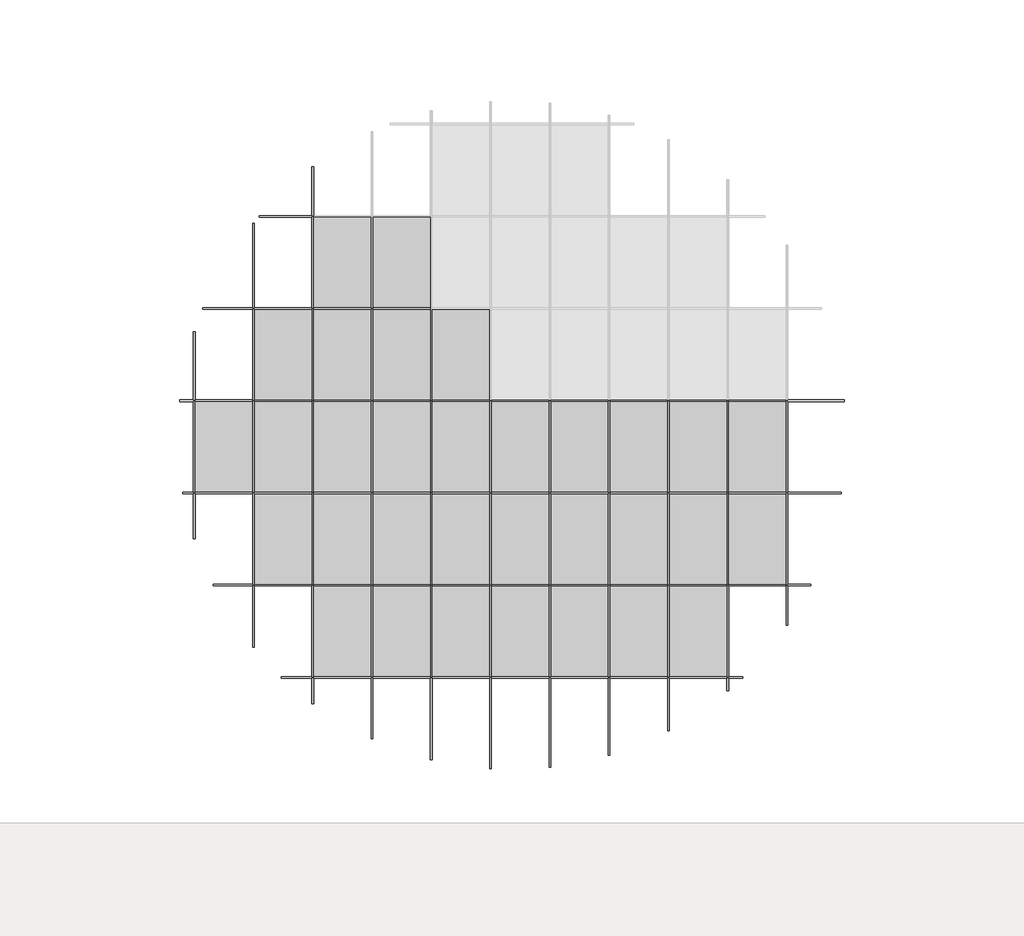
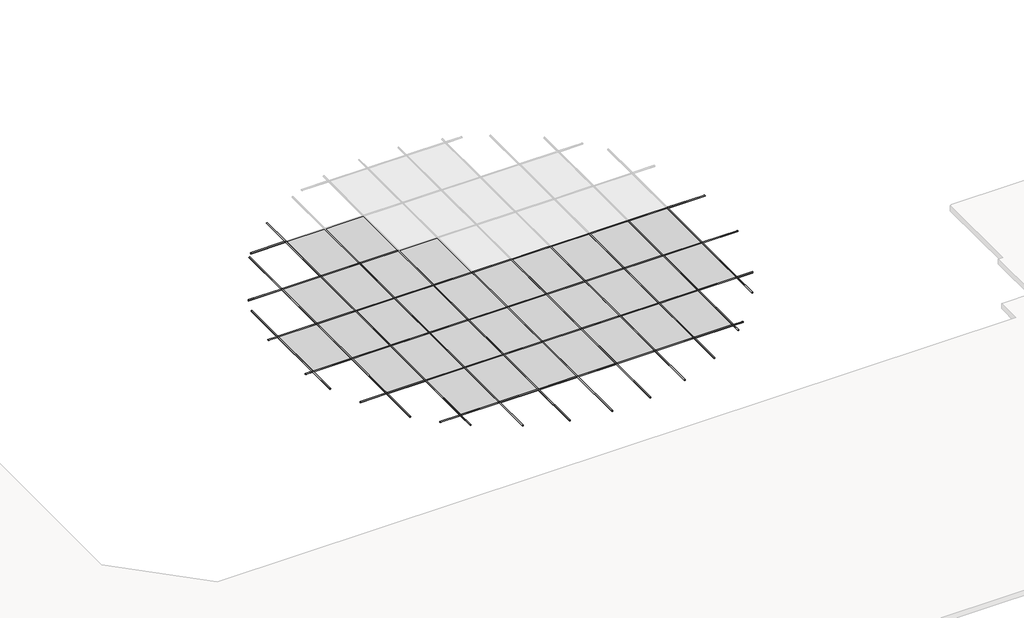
# One storey, part 1 of 2: 96 members, 32 plates.
"""IFC4 building model written with IfcOpenShell, lengths in millimetres."""

from ifc_helpers import new_model, si_unit, origin, place, context, project, spatial, transform, mapped, element, save
from components import member_d95575fb, member_0f460398, member_91c2d102, member_bfca14ca, member_fa94dc53, member_b906242a, member_67be213a, member_7f045f6e, member_f332dd52, member_1cbf8feb, member_bbfd51af, member_9d098597, member_0477ad9e, member_845dd39e, member_e576f25c, member_2abb22e4, member_0fbff286, member_6b4de103, member_b493c0ce, member_d9b21ff1, member_7ddd8d92, member_ed3956ca, member_4ec9f277, member_37831322, member_d0450398, member_40f360b9, plate_f02ba564

model = new_model("IFC4")

# Units and contexts
model_context = context("Model", 3, world=origin())
ifc_project = project(units=[si_unit("LENGTHUNIT", "METRE", prefix="MILLI")], contexts=[model_context])

# Site, building, storey
site = spatial("IfcSite", under=ifc_project)
building = spatial("IfcBuilding", under=site)
storey = spatial("IfcBuildingStorey", under=building, Name="樓層 3", Elevation=8500.0)

# Members
placement = place(None, origin())
member_shape = member_d95575fb(model_context)
element("IfcMember", 1, ObjectType="圓形豎框 : 25mm 半徑", at=placement, inside=storey, context=model_context, shape_type="MappedRepresentation", body=[
    mapped(member_shape, transform((-4700.3811976, -24415.6700726, 9144.0), x_axis=(0.0, 1.0, 0.0), y_axis=(0.0, 0.0, 1.0), z_axis=(1.0, 0.0, 0.0))),
])
member_2_shape = member_0f460398(model_context)
element("IfcMember", 2, ObjectType="圓形豎框 : 25mm 半徑", at=placement, inside=storey, context=model_context, shape_type="MappedRepresentation", body=[
    mapped(member_2_shape, transform((-5175.3955556, -24415.6700726, 9144.0), x_axis=(0.0, 1.0, 0.0), y_axis=(0.0, 0.0, 1.0), z_axis=(1.0, 0.0, 0.0))),
])
element("IfcMember", 3, ObjectType="圓形豎框 : 25mm 半徑", at=placement, inside=storey, context=model_context, shape_type="MappedRepresentation", body=[
    mapped(member_2_shape, transform((-6975.3955556, -24415.6700726, 9144.0), x_axis=(0.0, 1.0, 0.0), y_axis=(0.0, 0.0, 1.0), z_axis=(1.0, 0.0, 0.0))),
])
element("IfcMember", 4, ObjectType="圓形豎框 : 25mm 半徑", at=placement, inside=storey, context=model_context, shape_type="MappedRepresentation", body=[
    mapped(member_2_shape, transform((-8775.3955556, -24415.6700726, 9144.0), x_axis=(0.0, 1.0, 0.0), y_axis=(0.0, 0.0, 1.0), z_axis=(1.0, 0.0, 0.0))),
])
element("IfcMember", 5, ObjectType="圓形豎框 : 25mm 半徑", at=placement, inside=storey, context=model_context, shape_type="MappedRepresentation", body=[
    mapped(member_2_shape, transform((-10575.3955556, -24415.6700726, 9144.0), x_axis=(0.0, 1.0, 0.0), y_axis=(0.0, 0.0, 1.0), z_axis=(1.0, 0.0, 0.0))),
])
element("IfcMember", 6, ObjectType="圓形豎框 : 25mm 半徑", at=placement, inside=storey, context=model_context, shape_type="MappedRepresentation", body=[
    mapped(member_2_shape, transform((-12375.3955556, -24415.6700726, 9144.0), x_axis=(0.0, 1.0, 0.0), y_axis=(0.0, 0.0, 1.0), z_axis=(1.0, 0.0, 0.0))),
])
element("IfcMember", 7, ObjectType="圓形豎框 : 25mm 半徑", at=placement, inside=storey, context=model_context, shape_type="MappedRepresentation", body=[
    mapped(member_2_shape, transform((-14175.3955556, -24415.6700726, 9144.0), x_axis=(0.0, 1.0, 0.0), y_axis=(0.0, 0.0, 1.0), z_axis=(1.0, 0.0, 0.0))),
])
element("IfcMember", 8, ObjectType="圓形豎框 : 25mm 半徑", at=placement, inside=storey, context=model_context, shape_type="MappedRepresentation", body=[
    mapped(member_2_shape, transform((-15975.3955556, -24415.6700726, 9144.0), x_axis=(0.0, 1.0, 0.0), y_axis=(0.0, 0.0, 1.0), z_axis=(1.0, 0.0, 0.0))),
])
element("IfcMember", 9, ObjectType="圓形豎框 : 25mm 半徑", at=placement, inside=storey, context=model_context, shape_type="MappedRepresentation", body=[
    mapped(member_2_shape, transform((-3375.3955556, -21615.6700726, 9144.0), x_axis=(0.0, 1.0, 0.0), y_axis=(0.0, 0.0, 1.0), z_axis=(1.0, 0.0, 0.0))),
])
element("IfcMember", 10, ObjectType="圓形豎框 : 25mm 半徑", at=placement, inside=storey, context=model_context, shape_type="MappedRepresentation", body=[
    mapped(member_2_shape, transform((-5175.3955556, -21615.6700726, 9144.0), x_axis=(0.0, 1.0, 0.0), y_axis=(0.0, 0.0, 1.0), z_axis=(1.0, 0.0, 0.0))),
])
element("IfcMember", 11, ObjectType="圓形豎框 : 25mm 半徑", at=placement, inside=storey, context=model_context, shape_type="MappedRepresentation", body=[
    mapped(member_2_shape, transform((-6975.3955556, -21615.6700726, 9144.0), x_axis=(0.0, 1.0, 0.0), y_axis=(0.0, 0.0, 1.0), z_axis=(1.0, 0.0, 0.0))),
])
element("IfcMember", 12, ObjectType="圓形豎框 : 25mm 半徑", at=placement, inside=storey, context=model_context, shape_type="MappedRepresentation", body=[
    mapped(member_2_shape, transform((-8775.3955556, -21615.6700726, 9144.0), x_axis=(0.0, 1.0, 0.0), y_axis=(0.0, 0.0, 1.0), z_axis=(1.0, 0.0, 0.0))),
])
element("IfcMember", 13, ObjectType="圓形豎框 : 25mm 半徑", at=placement, inside=storey, context=model_context, shape_type="MappedRepresentation", body=[
    mapped(member_2_shape, transform((-10575.3955556, -21615.6700726, 9144.0), x_axis=(0.0, 1.0, 0.0), y_axis=(0.0, 0.0, 1.0), z_axis=(1.0, 0.0, 0.0))),
])
element("IfcMember", 14, ObjectType="圓形豎框 : 25mm 半徑", at=placement, inside=storey, context=model_context, shape_type="MappedRepresentation", body=[
    mapped(member_2_shape, transform((-12375.3955556, -21615.6700726, 9144.0), x_axis=(0.0, 1.0, 0.0), y_axis=(0.0, 0.0, 1.0), z_axis=(1.0, 0.0, 0.0))),
])
element("IfcMember", 15, ObjectType="圓形豎框 : 25mm 半徑", at=placement, inside=storey, context=model_context, shape_type="MappedRepresentation", body=[
    mapped(member_2_shape, transform((-14175.3955556, -21615.6700726, 9144.0), x_axis=(0.0, 1.0, 0.0), y_axis=(0.0, 0.0, 1.0), z_axis=(1.0, 0.0, 0.0))),
])
element("IfcMember", 16, ObjectType="圓形豎框 : 25mm 半徑", at=placement, inside=storey, context=model_context, shape_type="MappedRepresentation", body=[
    mapped(member_2_shape, transform((-15975.3955556, -21615.6700726, 9144.0), x_axis=(0.0, 1.0, 0.0), y_axis=(0.0, 0.0, 1.0), z_axis=(1.0, 0.0, 0.0))),
])
element("IfcMember", 17, ObjectType="圓形豎框 : 25mm 半徑", at=placement, inside=storey, context=model_context, shape_type="MappedRepresentation", body=[
    mapped(member_2_shape, transform((-17775.3955556, -21615.6700726, 9144.0), x_axis=(0.0, 1.0, 0.0), y_axis=(0.0, 0.0, 1.0), z_axis=(1.0, 0.0, 0.0))),
])
element("IfcMember", 18, ObjectType="圓形豎框 : 25mm 半徑", at=placement, inside=storey, context=model_context, shape_type="MappedRepresentation", body=[
    mapped(member_2_shape, transform((-3375.3955556, -18815.6700726, 9144.0), x_axis=(0.0, 1.0, 0.0), y_axis=(0.0, 0.0, 1.0), z_axis=(1.0, 0.0, 0.0))),
])
element("IfcMember", 19, ObjectType="圓形豎框 : 25mm 半徑", at=placement, inside=storey, context=model_context, shape_type="MappedRepresentation", body=[
    mapped(member_2_shape, transform((-5175.3955556, -18815.6700726, 9144.0), x_axis=(0.0, 1.0, 0.0), y_axis=(0.0, 0.0, 1.0), z_axis=(1.0, 0.0, 0.0))),
])
element("IfcMember", 20, ObjectType="圓形豎框 : 25mm 半徑", at=placement, inside=storey, context=model_context, shape_type="MappedRepresentation", body=[
    mapped(member_2_shape, transform((-6975.3955556, -18815.6700726, 9144.0), x_axis=(0.0, 1.0, 0.0), y_axis=(0.0, 0.0, 1.0), z_axis=(1.0, 0.0, 0.0))),
])
element("IfcMember", 21, ObjectType="圓形豎框 : 25mm 半徑", at=placement, inside=storey, context=model_context, shape_type="MappedRepresentation", body=[
    mapped(member_2_shape, transform((-8775.3955556, -18815.6700726, 9144.0), x_axis=(0.0, 1.0, 0.0), y_axis=(0.0, 0.0, 1.0), z_axis=(1.0, 0.0, 0.0))),
])
element("IfcMember", 22, ObjectType="圓形豎框 : 25mm 半徑", at=placement, inside=storey, context=model_context, shape_type="MappedRepresentation", body=[
    mapped(member_2_shape, transform((-10575.3955556, -18815.6700726, 9144.0), x_axis=(0.0, 1.0, 0.0), y_axis=(0.0, 0.0, 1.0), z_axis=(1.0, 0.0, 0.0))),
])
element("IfcMember", 23, ObjectType="圓形豎框 : 25mm 半徑", at=placement, inside=storey, context=model_context, shape_type="MappedRepresentation", body=[
    mapped(member_2_shape, transform((-12375.3955556, -18815.6700726, 9144.0), x_axis=(0.0, 1.0, 0.0), y_axis=(0.0, 0.0, 1.0), z_axis=(1.0, 0.0, 0.0))),
])
element("IfcMember", 24, ObjectType="圓形豎框 : 25mm 半徑", at=placement, inside=storey, context=model_context, shape_type="MappedRepresentation", body=[
    mapped(member_2_shape, transform((-14175.3955556, -18815.6700726, 9144.0), x_axis=(0.0, 1.0, 0.0), y_axis=(0.0, 0.0, 1.0), z_axis=(1.0, 0.0, 0.0))),
])
element("IfcMember", 25, ObjectType="圓形豎框 : 25mm 半徑", at=placement, inside=storey, context=model_context, shape_type="MappedRepresentation", body=[
    mapped(member_2_shape, transform((-15975.3955556, -18815.6700726, 9144.0), x_axis=(0.0, 1.0, 0.0), y_axis=(0.0, 0.0, 1.0), z_axis=(1.0, 0.0, 0.0))),
])
element("IfcMember", 26, ObjectType="圓形豎框 : 25mm 半徑", at=placement, inside=storey, context=model_context, shape_type="MappedRepresentation", body=[
    mapped(member_2_shape, transform((-17775.3955556, -18815.6700726, 9144.0), x_axis=(0.0, 1.0, 0.0), y_axis=(0.0, 0.0, 1.0), z_axis=(1.0, 0.0, 0.0))),
])
element("IfcMember", 27, ObjectType="圓形豎框 : 25mm 半徑", at=placement, inside=storey, context=model_context, shape_type="MappedRepresentation", body=[
    mapped(member_2_shape, transform((-19575.3955556, -18815.6700726, 9144.0), x_axis=(0.0, 1.0, 0.0), y_axis=(0.0, 0.0, 1.0), z_axis=(1.0, 0.0, 0.0))),
])
element("IfcMember", 28, ObjectType="圓形豎框 : 25mm 半徑", at=placement, inside=storey, context=model_context, shape_type="MappedRepresentation", body=[
    mapped(member_2_shape, transform((-3375.3955556, -16015.6700726, 9144.0), x_axis=(0.0, 1.0, 0.0), y_axis=(0.0, 0.0, 1.0), z_axis=(1.0, 0.0, 0.0))),
])
element("IfcMember", 29, ObjectType="圓形豎框 : 25mm 半徑", at=placement, inside=storey, context=model_context, shape_type="MappedRepresentation", body=[
    mapped(member_2_shape, transform((-5175.3955556, -16015.6700726, 9144.0), x_axis=(0.0, 1.0, 0.0), y_axis=(0.0, 0.0, 1.0), z_axis=(1.0, 0.0, 0.0))),
])
element("IfcMember", 30, ObjectType="圓形豎框 : 25mm 半徑", at=placement, inside=storey, context=model_context, shape_type="MappedRepresentation", body=[
    mapped(member_2_shape, transform((-6975.3955556, -16015.6700726, 9144.0), x_axis=(0.0, 1.0, 0.0), y_axis=(0.0, 0.0, 1.0), z_axis=(1.0, 0.0, 0.0))),
])
element("IfcMember", 31, ObjectType="圓形豎框 : 25mm 半徑", at=placement, inside=storey, context=model_context, shape_type="MappedRepresentation", body=[
    mapped(member_2_shape, transform((-8775.3955556, -16015.6700726, 9144.0), x_axis=(0.0, 1.0, 0.0), y_axis=(0.0, 0.0, 1.0), z_axis=(1.0, 0.0, 0.0))),
])
element("IfcMember", 32, ObjectType="圓形豎框 : 25mm 半徑", at=placement, inside=storey, context=model_context, shape_type="MappedRepresentation", body=[
    mapped(member_2_shape, transform((-10575.3955556, -16015.6700726, 9144.0), x_axis=(0.0, 1.0, 0.0), y_axis=(0.0, 0.0, 1.0), z_axis=(1.0, 0.0, 0.0))),
])
element("IfcMember", 33, ObjectType="圓形豎框 : 25mm 半徑", at=placement, inside=storey, context=model_context, shape_type="MappedRepresentation", body=[
    mapped(member_2_shape, transform((-12375.3955556, -16015.6700726, 9144.0), x_axis=(0.0, 1.0, 0.0), y_axis=(0.0, 0.0, 1.0), z_axis=(1.0, 0.0, 0.0))),
])
element("IfcMember", 34, ObjectType="圓形豎框 : 25mm 半徑", at=placement, inside=storey, context=model_context, shape_type="MappedRepresentation", body=[
    mapped(member_2_shape, transform((-14175.3955556, -16015.6700726, 9144.0), x_axis=(0.0, 1.0, 0.0), y_axis=(0.0, 0.0, 1.0), z_axis=(1.0, 0.0, 0.0))),
])
element("IfcMember", 35, ObjectType="圓形豎框 : 25mm 半徑", at=placement, inside=storey, context=model_context, shape_type="MappedRepresentation", body=[
    mapped(member_2_shape, transform((-15975.3955556, -16015.6700726, 9144.0), x_axis=(0.0, 1.0, 0.0), y_axis=(0.0, 0.0, 1.0), z_axis=(1.0, 0.0, 0.0))),
])
element("IfcMember", 36, ObjectType="圓形豎框 : 25mm 半徑", at=placement, inside=storey, context=model_context, shape_type="MappedRepresentation", body=[
    mapped(member_2_shape, transform((-17775.3955556, -16015.6700726, 9144.0), x_axis=(0.0, 1.0, 0.0), y_axis=(0.0, 0.0, 1.0), z_axis=(1.0, 0.0, 0.0))),
])
element("IfcMember", 37, ObjectType="圓形豎框 : 25mm 半徑", at=placement, inside=storey, context=model_context, shape_type="MappedRepresentation", body=[
    mapped(member_2_shape, transform((-19575.3955556, -16015.6700726, 9144.0), x_axis=(0.0, 1.0, 0.0), y_axis=(0.0, 0.0, 1.0), z_axis=(1.0, 0.0, 0.0))),
])
element("IfcMember", 38, ObjectType="圓形豎框 : 25mm 半徑", at=placement, inside=storey, context=model_context, shape_type="MappedRepresentation", body=[
    mapped(member_2_shape, transform((-14175.3955556, -13215.6700726, 9144.0), x_axis=(0.0, 1.0, 0.0), y_axis=(0.0, 0.0, 1.0), z_axis=(1.0, 0.0, 0.0))),
])
element("IfcMember", 39, ObjectType="圓形豎框 : 25mm 半徑", at=placement, inside=storey, context=model_context, shape_type="MappedRepresentation", body=[
    mapped(member_2_shape, transform((-15975.3955556, -13215.6700726, 9144.0), x_axis=(0.0, 1.0, 0.0), y_axis=(0.0, 0.0, 1.0), z_axis=(1.0, 0.0, 0.0))),
])
element("IfcMember", 40, ObjectType="圓形豎框 : 25mm 半徑", at=placement, inside=storey, context=model_context, shape_type="MappedRepresentation", body=[
    mapped(member_2_shape, transform((-17775.3955556, -13215.6700726, 9144.0), x_axis=(0.0, 1.0, 0.0), y_axis=(0.0, 0.0, 1.0), z_axis=(1.0, 0.0, 0.0))),
])
member_3_shape = member_91c2d102(model_context)
element("IfcMember", 41, ObjectType="圓形豎框 : 25mm 半徑", at=placement, inside=storey, context=model_context, shape_type="MappedRepresentation", body=[
    mapped(member_3_shape, transform((-17775.3955556, -24415.6700726, 9144.0), x_axis=(0.0, 1.0, 0.0), y_axis=(0.0, 0.0, 1.0), z_axis=(1.0, 0.0, 0.0))),
])
member_4_shape = member_bfca14ca(model_context)
element("IfcMember", 42, ObjectType="圓形豎框 : 25mm 半徑", at=placement, inside=storey, context=model_context, shape_type="MappedRepresentation", body=[
    mapped(member_4_shape, transform((-2627.3494379, -21615.6700726, 9144.0), x_axis=(0.0, 1.0, 0.0), y_axis=(0.0, 0.0, 1.0), z_axis=(1.0, 0.0, 0.0))),
])
member_5_shape = member_fa94dc53(model_context)
element("IfcMember", 43, ObjectType="圓形豎框 : 25mm 半徑", at=placement, inside=storey, context=model_context, shape_type="MappedRepresentation", body=[
    mapped(member_5_shape, transform((-19575.3955556, -21615.6700726, 9144.0), x_axis=(0.0, 1.0, 0.0), y_axis=(0.0, 0.0, 1.0), z_axis=(1.0, 0.0, 0.0))),
])
member_6_shape = member_b906242a(model_context)
element("IfcMember", 44, ObjectType="圓形豎框 : 25mm 半徑", at=placement, inside=storey, context=model_context, shape_type="MappedRepresentation", body=[
    mapped(member_6_shape, transform((-1702.3921361, -18815.6700726, 9144.0), x_axis=(0.0, 1.0, 0.0), y_axis=(0.0, 0.0, 1.0), z_axis=(1.0, 0.0, 0.0))),
])
member_7_shape = member_67be213a(model_context)
element("IfcMember", 45, ObjectType="圓形豎框 : 25mm 半徑", at=placement, inside=storey, context=model_context, shape_type="MappedRepresentation", body=[
    mapped(member_7_shape, transform((-21375.3955556, -18815.6700726, 9144.0), x_axis=(0.0, 1.0, 0.0), y_axis=(0.0, 0.0, 1.0), z_axis=(1.0, 0.0, 0.0))),
])
member_8_shape = member_7f045f6e(model_context)
element("IfcMember", 46, ObjectType="圓形豎框 : 25mm 半徑", at=placement, inside=storey, context=model_context, shape_type="MappedRepresentation", body=[
    mapped(member_8_shape, transform((-1604.8548278, -16015.6700726, 9144.0), x_axis=(0.0, 1.0, 0.0), y_axis=(0.0, 0.0, 1.0), z_axis=(1.0, 0.0, 0.0))),
])
member_9_shape = member_f332dd52(model_context)
element("IfcMember", 47, ObjectType="圓形豎框 : 25mm 半徑", at=placement, inside=storey, context=model_context, shape_type="MappedRepresentation", body=[
    mapped(member_9_shape, transform((-21375.3955556, -16015.6700726, 9144.0), x_axis=(0.0, 1.0, 0.0), y_axis=(0.0, 0.0, 1.0), z_axis=(1.0, 0.0, 0.0))),
])
member_10_shape = member_1cbf8feb(model_context)
element("IfcMember", 48, ObjectType="圓形豎框 : 25mm 半徑", at=placement, inside=storey, context=model_context, shape_type="MappedRepresentation", body=[
    mapped(member_10_shape, transform((-19575.3955556, -13215.6700726, 9144.0), x_axis=(0.0, 1.0, 0.0), y_axis=(0.0, 0.0, 1.0), z_axis=(1.0, 0.0, 0.0))),
])
member_11_shape = member_bbfd51af(model_context)
element("IfcMember", 49, ObjectType="圓形豎框 : 25mm 半徑", at=placement, inside=storey, context=model_context, shape_type="MappedRepresentation", body=[
    mapped(member_11_shape, transform((-17775.3955556, -10415.6700726, 9144.0), x_axis=(0.0, 1.0, 0.0), y_axis=(0.0, 0.0, 1.0), z_axis=(1.0, 0.0, 0.0))),
])
member_12_shape = member_9d098597(model_context)
element("IfcMember", 50, ObjectType="圓形豎框 : 25mm 半徑", at=placement, inside=storey, context=model_context, shape_type="MappedRepresentation", body=[
    mapped(member_12_shape, transform((-17750.3955556, -8915.8983207, 9144.0), x_axis=(-1.0, 0.0, 0.0), y_axis=(0.0, 0.0, 1.0), z_axis=(0.0, 1.0, 0.0))),
])
member_13_shape = member_0477ad9e(model_context)
element("IfcMember", 51, ObjectType="圓形豎框 : 25mm 半徑", at=placement, inside=storey, context=model_context, shape_type="MappedRepresentation", body=[
    mapped(member_13_shape, transform((-19550.3955556, -10631.4818203, 9144.0), x_axis=(-1.0, 0.0, 0.0), y_axis=(0.0, 0.0, 1.0), z_axis=(0.0, 1.0, 0.0))),
])
member_14_shape = member_845dd39e(model_context)
element("IfcMember", 52, ObjectType="圓形豎框 : 25mm 半徑", at=placement, inside=storey, context=model_context, shape_type="MappedRepresentation", body=[
    mapped(member_14_shape, transform((-21350.3955556, -13919.4243097, 9144.0), x_axis=(-1.0, 0.0, 0.0), y_axis=(0.0, 0.0, 1.0), z_axis=(0.0, 1.0, 0.0))),
])
member_15_shape = member_e576f25c(model_context)
element("IfcMember", 53, ObjectType="圓形豎框 : 25mm 半徑", at=placement, inside=storey, context=model_context, shape_type="MappedRepresentation", body=[
    mapped(member_15_shape, transform((-5150.3955556, -24415.6700726, 9144.0), x_axis=(-1.0, 0.0, 0.0), y_axis=(0.0, 0.0, 1.0), z_axis=(0.0, 1.0, 0.0))),
])
member_16_shape = member_2abb22e4(model_context)
element("IfcMember", 54, ObjectType="圓形豎框 : 25mm 半徑", at=placement, inside=storey, context=model_context, shape_type="MappedRepresentation", body=[
    mapped(member_16_shape, transform((-6950.3955556, -24415.6700726, 9144.0), x_axis=(-1.0, 0.0, 0.0), y_axis=(0.0, 0.0, 1.0), z_axis=(0.0, 1.0, 0.0))),
])
member_17_shape = member_0fbff286(model_context)
element("IfcMember", 55, ObjectType="圓形豎框 : 25mm 半徑", at=placement, inside=storey, context=model_context, shape_type="MappedRepresentation", body=[
    mapped(member_17_shape, transform((-8750.3955556, -24415.6700726, 9144.0), x_axis=(-1.0, 0.0, 0.0), y_axis=(0.0, 0.0, 1.0), z_axis=(0.0, 1.0, 0.0))),
])
member_18_shape = member_6b4de103(model_context)
element("IfcMember", 56, ObjectType="圓形豎框 : 25mm 半徑", at=placement, inside=storey, context=model_context, shape_type="MappedRepresentation", body=[
    mapped(member_18_shape, transform((-10550.3955556, -24415.6700726, 9144.0), x_axis=(-1.0, 0.0, 0.0), y_axis=(0.0, 0.0, 1.0), z_axis=(0.0, 1.0, 0.0))),
])
member_19_shape = member_b493c0ce(model_context)
element("IfcMember", 57, ObjectType="圓形豎框 : 25mm 半徑", at=placement, inside=storey, context=model_context, shape_type="MappedRepresentation", body=[
    mapped(member_19_shape, transform((-12350.3955556, -24415.6700726, 9144.0), x_axis=(-1.0, 0.0, 0.0), y_axis=(0.0, 0.0, 1.0), z_axis=(0.0, 1.0, 0.0))),
])
member_20_shape = member_d9b21ff1(model_context)
element("IfcMember", 58, ObjectType="圓形豎框 : 25mm 半徑", at=placement, inside=storey, context=model_context, shape_type="MappedRepresentation", body=[
    mapped(member_20_shape, transform((-14150.3955556, -24415.6700726, 9144.0), x_axis=(-1.0, 0.0, 0.0), y_axis=(0.0, 0.0, 1.0), z_axis=(0.0, 1.0, 0.0))),
])
member_21_shape = member_7ddd8d92(model_context)
element("IfcMember", 59, ObjectType="圓形豎框 : 25mm 半徑", at=placement, inside=storey, context=model_context, shape_type="MappedRepresentation", body=[
    mapped(member_21_shape, transform((-15950.3955556, -24415.6700726, 9144.0), x_axis=(-1.0, 0.0, 0.0), y_axis=(0.0, 0.0, 1.0), z_axis=(0.0, 1.0, 0.0))),
])
member_22_shape = member_ed3956ca(model_context)
element("IfcMember", 60, ObjectType="圓形豎框 : 25mm 半徑", at=placement, inside=storey, context=model_context, shape_type="MappedRepresentation", body=[
    mapped(member_22_shape, transform((-17750.3955556, -24415.6700726, 9144.0), x_axis=(-1.0, 0.0, 0.0), y_axis=(0.0, 0.0, 1.0), z_axis=(0.0, 1.0, 0.0))),
])
member_23_shape = member_4ec9f277(model_context)
element("IfcMember", 61, ObjectType="圓形豎框 : 25mm 半徑", at=placement, inside=storey, context=model_context, shape_type="MappedRepresentation", body=[
    mapped(member_23_shape, transform((-3350.3955556, -21615.6700726, 9144.0), x_axis=(-1.0, 0.0, 0.0), y_axis=(0.0, 0.0, 1.0), z_axis=(0.0, 1.0, 0.0))),
])
member_24_shape = member_37831322(model_context)
element("IfcMember", 62, ObjectType="圓形豎框 : 25mm 半徑", at=placement, inside=storey, context=model_context, shape_type="MappedRepresentation", body=[
    mapped(member_24_shape, transform((-5150.3955556, -21615.6700726, 9144.0), x_axis=(-1.0, 0.0, 0.0), y_axis=(0.0, 0.0, 1.0), z_axis=(0.0, 1.0, 0.0))),
])
element("IfcMember", 63, ObjectType="圓形豎框 : 25mm 半徑", at=placement, inside=storey, context=model_context, shape_type="MappedRepresentation", body=[
    mapped(member_24_shape, transform((-6950.3955556, -21615.6700726, 9144.0), x_axis=(-1.0, 0.0, 0.0), y_axis=(0.0, 0.0, 1.0), z_axis=(0.0, 1.0, 0.0))),
])
element("IfcMember", 64, ObjectType="圓形豎框 : 25mm 半徑", at=placement, inside=storey, context=model_context, shape_type="MappedRepresentation", body=[
    mapped(member_24_shape, transform((-8750.3955556, -21615.6700726, 9144.0), x_axis=(-1.0, 0.0, 0.0), y_axis=(0.0, 0.0, 1.0), z_axis=(0.0, 1.0, 0.0))),
])
element("IfcMember", 65, ObjectType="圓形豎框 : 25mm 半徑", at=placement, inside=storey, context=model_context, shape_type="MappedRepresentation", body=[
    mapped(member_24_shape, transform((-10550.3955556, -21615.6700726, 9144.0), x_axis=(-1.0, 0.0, 0.0), y_axis=(0.0, 0.0, 1.0), z_axis=(0.0, 1.0, 0.0))),
])
element("IfcMember", 66, ObjectType="圓形豎框 : 25mm 半徑", at=placement, inside=storey, context=model_context, shape_type="MappedRepresentation", body=[
    mapped(member_24_shape, transform((-12350.3955556, -21615.6700726, 9144.0), x_axis=(-1.0, 0.0, 0.0), y_axis=(0.0, 0.0, 1.0), z_axis=(0.0, 1.0, 0.0))),
])
element("IfcMember", 67, ObjectType="圓形豎框 : 25mm 半徑", at=placement, inside=storey, context=model_context, shape_type="MappedRepresentation", body=[
    mapped(member_24_shape, transform((-14150.3955556, -21615.6700726, 9144.0), x_axis=(-1.0, 0.0, 0.0), y_axis=(0.0, 0.0, 1.0), z_axis=(0.0, 1.0, 0.0))),
])
element("IfcMember", 68, ObjectType="圓形豎框 : 25mm 半徑", at=placement, inside=storey, context=model_context, shape_type="MappedRepresentation", body=[
    mapped(member_24_shape, transform((-15950.3955556, -21615.6700726, 9144.0), x_axis=(-1.0, 0.0, 0.0), y_axis=(0.0, 0.0, 1.0), z_axis=(0.0, 1.0, 0.0))),
])
element("IfcMember", 69, ObjectType="圓形豎框 : 25mm 半徑", at=placement, inside=storey, context=model_context, shape_type="MappedRepresentation", body=[
    mapped(member_24_shape, transform((-17750.3955556, -21615.6700726, 9144.0), x_axis=(-1.0, 0.0, 0.0), y_axis=(0.0, 0.0, 1.0), z_axis=(0.0, 1.0, 0.0))),
])
element("IfcMember", 70, ObjectType="圓形豎框 : 25mm 半徑", at=placement, inside=storey, context=model_context, shape_type="MappedRepresentation", body=[
    mapped(member_24_shape, transform((-3350.3955556, -18815.6700726, 9144.0), x_axis=(-1.0, 0.0, 0.0), y_axis=(0.0, 0.0, 1.0), z_axis=(0.0, 1.0, 0.0))),
])
element("IfcMember", 71, ObjectType="圓形豎框 : 25mm 半徑", at=placement, inside=storey, context=model_context, shape_type="MappedRepresentation", body=[
    mapped(member_24_shape, transform((-5150.3955556, -18815.6700726, 9144.0), x_axis=(-1.0, 0.0, 0.0), y_axis=(0.0, 0.0, 1.0), z_axis=(0.0, 1.0, 0.0))),
])
element("IfcMember", 72, ObjectType="圓形豎框 : 25mm 半徑", at=placement, inside=storey, context=model_context, shape_type="MappedRepresentation", body=[
    mapped(member_24_shape, transform((-6950.3955556, -18815.6700726, 9144.0), x_axis=(-1.0, 0.0, 0.0), y_axis=(0.0, 0.0, 1.0), z_axis=(0.0, 1.0, 0.0))),
])
element("IfcMember", 73, ObjectType="圓形豎框 : 25mm 半徑", at=placement, inside=storey, context=model_context, shape_type="MappedRepresentation", body=[
    mapped(member_24_shape, transform((-8750.3955556, -18815.6700726, 9144.0), x_axis=(-1.0, 0.0, 0.0), y_axis=(0.0, 0.0, 1.0), z_axis=(0.0, 1.0, 0.0))),
])
element("IfcMember", 74, ObjectType="圓形豎框 : 25mm 半徑", at=placement, inside=storey, context=model_context, shape_type="MappedRepresentation", body=[
    mapped(member_24_shape, transform((-10550.3955556, -18815.6700726, 9144.0), x_axis=(-1.0, 0.0, 0.0), y_axis=(0.0, 0.0, 1.0), z_axis=(0.0, 1.0, 0.0))),
])
element("IfcMember", 75, ObjectType="圓形豎框 : 25mm 半徑", at=placement, inside=storey, context=model_context, shape_type="MappedRepresentation", body=[
    mapped(member_24_shape, transform((-12350.3955556, -18815.6700726, 9144.0), x_axis=(-1.0, 0.0, 0.0), y_axis=(0.0, 0.0, 1.0), z_axis=(0.0, 1.0, 0.0))),
])
element("IfcMember", 76, ObjectType="圓形豎框 : 25mm 半徑", at=placement, inside=storey, context=model_context, shape_type="MappedRepresentation", body=[
    mapped(member_24_shape, transform((-14150.3955556, -18815.6700726, 9144.0), x_axis=(-1.0, 0.0, 0.0), y_axis=(0.0, 0.0, 1.0), z_axis=(0.0, 1.0, 0.0))),
])
element("IfcMember", 77, ObjectType="圓形豎框 : 25mm 半徑", at=placement, inside=storey, context=model_context, shape_type="MappedRepresentation", body=[
    mapped(member_24_shape, transform((-15950.3955556, -18815.6700726, 9144.0), x_axis=(-1.0, 0.0, 0.0), y_axis=(0.0, 0.0, 1.0), z_axis=(0.0, 1.0, 0.0))),
])
element("IfcMember", 78, ObjectType="圓形豎框 : 25mm 半徑", at=placement, inside=storey, context=model_context, shape_type="MappedRepresentation", body=[
    mapped(member_24_shape, transform((-17750.3955556, -18815.6700726, 9144.0), x_axis=(-1.0, 0.0, 0.0), y_axis=(0.0, 0.0, 1.0), z_axis=(0.0, 1.0, 0.0))),
])
element("IfcMember", 79, ObjectType="圓形豎框 : 25mm 半徑", at=placement, inside=storey, context=model_context, shape_type="MappedRepresentation", body=[
    mapped(member_24_shape, transform((-19550.3955556, -18815.6700726, 9144.0), x_axis=(-1.0, 0.0, 0.0), y_axis=(0.0, 0.0, 1.0), z_axis=(0.0, 1.0, 0.0))),
])
element("IfcMember", 80, ObjectType="圓形豎框 : 25mm 半徑", at=placement, inside=storey, context=model_context, shape_type="MappedRepresentation", body=[
    mapped(member_24_shape, transform((-3350.3955556, -16015.6700726, 9144.0), x_axis=(-1.0, 0.0, 0.0), y_axis=(0.0, 0.0, 1.0), z_axis=(0.0, 1.0, 0.0))),
])
element("IfcMember", 81, ObjectType="圓形豎框 : 25mm 半徑", at=placement, inside=storey, context=model_context, shape_type="MappedRepresentation", body=[
    mapped(member_24_shape, transform((-5150.3955556, -16015.6700726, 9144.0), x_axis=(-1.0, 0.0, 0.0), y_axis=(0.0, 0.0, 1.0), z_axis=(0.0, 1.0, 0.0))),
])
element("IfcMember", 82, ObjectType="圓形豎框 : 25mm 半徑", at=placement, inside=storey, context=model_context, shape_type="MappedRepresentation", body=[
    mapped(member_24_shape, transform((-6950.3955556, -16015.6700726, 9144.0), x_axis=(-1.0, 0.0, 0.0), y_axis=(0.0, 0.0, 1.0), z_axis=(0.0, 1.0, 0.0))),
])
element("IfcMember", 83, ObjectType="圓形豎框 : 25mm 半徑", at=placement, inside=storey, context=model_context, shape_type="MappedRepresentation", body=[
    mapped(member_24_shape, transform((-8750.3955556, -16015.6700726, 9144.0), x_axis=(-1.0, 0.0, 0.0), y_axis=(0.0, 0.0, 1.0), z_axis=(0.0, 1.0, 0.0))),
])
element("IfcMember", 84, ObjectType="圓形豎框 : 25mm 半徑", at=placement, inside=storey, context=model_context, shape_type="MappedRepresentation", body=[
    mapped(member_24_shape, transform((-10550.3955556, -16015.6700726, 9144.0), x_axis=(-1.0, 0.0, 0.0), y_axis=(0.0, 0.0, 1.0), z_axis=(0.0, 1.0, 0.0))),
])
element("IfcMember", 85, ObjectType="圓形豎框 : 25mm 半徑", at=placement, inside=storey, context=model_context, shape_type="MappedRepresentation", body=[
    mapped(member_24_shape, transform((-12350.3955556, -16015.6700726, 9144.0), x_axis=(-1.0, 0.0, 0.0), y_axis=(0.0, 0.0, 1.0), z_axis=(0.0, 1.0, 0.0))),
])
element("IfcMember", 86, ObjectType="圓形豎框 : 25mm 半徑", at=placement, inside=storey, context=model_context, shape_type="MappedRepresentation", body=[
    mapped(member_24_shape, transform((-14150.3955556, -16015.6700726, 9144.0), x_axis=(-1.0, 0.0, 0.0), y_axis=(0.0, 0.0, 1.0), z_axis=(0.0, 1.0, 0.0))),
])
element("IfcMember", 87, ObjectType="圓形豎框 : 25mm 半徑", at=placement, inside=storey, context=model_context, shape_type="MappedRepresentation", body=[
    mapped(member_24_shape, transform((-15950.3955556, -16015.6700726, 9144.0), x_axis=(-1.0, 0.0, 0.0), y_axis=(0.0, 0.0, 1.0), z_axis=(0.0, 1.0, 0.0))),
])
element("IfcMember", 88, ObjectType="圓形豎框 : 25mm 半徑", at=placement, inside=storey, context=model_context, shape_type="MappedRepresentation", body=[
    mapped(member_24_shape, transform((-17750.3955556, -16015.6700726, 9144.0), x_axis=(-1.0, 0.0, 0.0), y_axis=(0.0, 0.0, 1.0), z_axis=(0.0, 1.0, 0.0))),
])
element("IfcMember", 89, ObjectType="圓形豎框 : 25mm 半徑", at=placement, inside=storey, context=model_context, shape_type="MappedRepresentation", body=[
    mapped(member_24_shape, transform((-19550.3955556, -16015.6700726, 9144.0), x_axis=(-1.0, 0.0, 0.0), y_axis=(0.0, 0.0, 1.0), z_axis=(0.0, 1.0, 0.0))),
])
element("IfcMember", 90, ObjectType="圓形豎框 : 25mm 半徑", at=placement, inside=storey, context=model_context, shape_type="MappedRepresentation", body=[
    mapped(member_24_shape, transform((-21350.3955556, -16015.6700726, 9144.0), x_axis=(-1.0, 0.0, 0.0), y_axis=(0.0, 0.0, 1.0), z_axis=(0.0, 1.0, 0.0))),
])
element("IfcMember", 91, ObjectType="圓形豎框 : 25mm 半徑", at=placement, inside=storey, context=model_context, shape_type="MappedRepresentation", body=[
    mapped(member_24_shape, transform((-15950.3955556, -13215.6700726, 9144.0), x_axis=(-1.0, 0.0, 0.0), y_axis=(0.0, 0.0, 1.0), z_axis=(0.0, 1.0, 0.0))),
])
element("IfcMember", 92, ObjectType="圓形豎框 : 25mm 半徑", at=placement, inside=storey, context=model_context, shape_type="MappedRepresentation", body=[
    mapped(member_24_shape, transform((-17750.3955556, -13215.6700726, 9144.0), x_axis=(-1.0, 0.0, 0.0), y_axis=(0.0, 0.0, 1.0), z_axis=(0.0, 1.0, 0.0))),
])
element("IfcMember", 93, ObjectType="圓形豎框 : 25mm 半徑", at=placement, inside=storey, context=model_context, shape_type="MappedRepresentation", body=[
    mapped(member_24_shape, transform((-19550.3955556, -13215.6700726, 9144.0), x_axis=(-1.0, 0.0, 0.0), y_axis=(0.0, 0.0, 1.0), z_axis=(0.0, 1.0, 0.0))),
])
element("IfcMember", 94, ObjectType="圓形豎框 : 25mm 半徑", at=placement, inside=storey, context=model_context, shape_type="MappedRepresentation", body=[
    mapped(member_24_shape, transform((-17750.3955556, -10415.6700726, 9144.0), x_axis=(-1.0, 0.0, 0.0), y_axis=(0.0, 0.0, 1.0), z_axis=(0.0, 1.0, 0.0))),
])
member_25_shape = member_d0450398(model_context)
element("IfcMember", 95, ObjectType="圓形豎框 : 25mm 半徑", at=placement, inside=storey, context=model_context, shape_type="MappedRepresentation", body=[
    mapped(member_25_shape, transform((-19550.3955556, -21615.6700726, 9144.0), x_axis=(-1.0, 0.0, 0.0), y_axis=(0.0, 0.0, 1.0), z_axis=(0.0, 1.0, 0.0))),
])
member_26_shape = member_40f360b9(model_context)
element("IfcMember", 96, ObjectType="圓形豎框 : 25mm 半徑", at=placement, inside=storey, context=model_context, shape_type="MappedRepresentation", body=[
    mapped(member_26_shape, transform((-21350.3955556, -18815.6700726, 9144.0), x_axis=(-1.0, 0.0, 0.0), y_axis=(0.0, 0.0, 1.0), z_axis=(0.0, 1.0, 0.0))),
])

# Plates
plate_shape = plate_f02ba564(model_context)
element("IfcPlate", 97, ObjectType="系統嵌板 : 玻璃 1.0cm", at=placement, inside=storey, context=model_context, shape_type="MappedRepresentation", body=[
    mapped(plate_shape, transform((-6050.3955556, -24390.6700726, 9144.0), x_axis=(-1.0, 0.0, 0.0), y_axis=(0.0, 0.0, 1.0), z_axis=(0.0, 1.0, 0.0))),
])
element("IfcPlate", 98, ObjectType="系統嵌板 : 玻璃 1.0cm", at=placement, inside=storey, context=model_context, shape_type="MappedRepresentation", body=[
    mapped(plate_shape, transform((-7850.3955556, -24390.6700726, 9144.0), x_axis=(-1.0, 0.0, 0.0), y_axis=(0.0, 0.0, 1.0), z_axis=(0.0, 1.0, 0.0))),
])
element("IfcPlate", 99, ObjectType="系統嵌板 : 玻璃 1.0cm", at=placement, inside=storey, context=model_context, shape_type="MappedRepresentation", body=[
    mapped(plate_shape, transform((-9650.3955556, -24390.6700726, 9144.0), x_axis=(-1.0, 0.0, 0.0), y_axis=(0.0, 0.0, 1.0), z_axis=(0.0, 1.0, 0.0))),
])
element("IfcPlate", 100, ObjectType="系統嵌板 : 玻璃 1.0cm", at=placement, inside=storey, context=model_context, shape_type="MappedRepresentation", body=[
    mapped(plate_shape, transform((-11450.3955556, -24390.6700726, 9144.0), x_axis=(-1.0, 0.0, 0.0), y_axis=(0.0, 0.0, 1.0), z_axis=(0.0, 1.0, 0.0))),
])
element("IfcPlate", 101, ObjectType="系統嵌板 : 玻璃 1.0cm", at=placement, inside=storey, context=model_context, shape_type="MappedRepresentation", body=[
    mapped(plate_shape, transform((-13250.3955556, -24390.6700726, 9144.0), x_axis=(-1.0, 0.0, 0.0), y_axis=(0.0, 0.0, 1.0), z_axis=(0.0, 1.0, 0.0))),
])
element("IfcPlate", 102, ObjectType="系統嵌板 : 玻璃 1.0cm", at=placement, inside=storey, context=model_context, shape_type="MappedRepresentation", body=[
    mapped(plate_shape, transform((-15050.3955556, -24390.6700726, 9144.0), x_axis=(-1.0, 0.0, 0.0), y_axis=(0.0, 0.0, 1.0), z_axis=(0.0, 1.0, 0.0))),
])
element("IfcPlate", 103, ObjectType="系統嵌板 : 玻璃 1.0cm", at=placement, inside=storey, context=model_context, shape_type="MappedRepresentation", body=[
    mapped(plate_shape, transform((-16850.3955556, -24390.6700726, 9144.0), x_axis=(-1.0, 0.0, 0.0), y_axis=(0.0, 0.0, 1.0), z_axis=(0.0, 1.0, 0.0))),
])
element("IfcPlate", 104, ObjectType="系統嵌板 : 玻璃 1.0cm", at=placement, inside=storey, context=model_context, shape_type="MappedRepresentation", body=[
    mapped(plate_shape, transform((-4250.3955556, -21590.6700726, 9144.0), x_axis=(-1.0, 0.0, 0.0), y_axis=(0.0, 0.0, 1.0), z_axis=(0.0, 1.0, 0.0))),
])
element("IfcPlate", 105, ObjectType="系統嵌板 : 玻璃 1.0cm", at=placement, inside=storey, context=model_context, shape_type="MappedRepresentation", body=[
    mapped(plate_shape, transform((-6050.3955556, -21590.6700726, 9144.0), x_axis=(-1.0, 0.0, 0.0), y_axis=(0.0, 0.0, 1.0), z_axis=(0.0, 1.0, 0.0))),
])
element("IfcPlate", 106, ObjectType="系統嵌板 : 玻璃 1.0cm", at=placement, inside=storey, context=model_context, shape_type="MappedRepresentation", body=[
    mapped(plate_shape, transform((-7850.3955556, -21590.6700726, 9144.0), x_axis=(-1.0, 0.0, 0.0), y_axis=(0.0, 0.0, 1.0), z_axis=(0.0, 1.0, 0.0))),
])
element("IfcPlate", 107, ObjectType="系統嵌板 : 玻璃 1.0cm", at=placement, inside=storey, context=model_context, shape_type="MappedRepresentation", body=[
    mapped(plate_shape, transform((-9650.3955556, -21590.6700726, 9144.0), x_axis=(-1.0, 0.0, 0.0), y_axis=(0.0, 0.0, 1.0), z_axis=(0.0, 1.0, 0.0))),
])
element("IfcPlate", 108, ObjectType="系統嵌板 : 玻璃 1.0cm", at=placement, inside=storey, context=model_context, shape_type="MappedRepresentation", body=[
    mapped(plate_shape, transform((-11450.3955556, -21590.6700726, 9144.0), x_axis=(-1.0, 0.0, 0.0), y_axis=(0.0, 0.0, 1.0), z_axis=(0.0, 1.0, 0.0))),
])
element("IfcPlate", 109, ObjectType="系統嵌板 : 玻璃 1.0cm", at=placement, inside=storey, context=model_context, shape_type="MappedRepresentation", body=[
    mapped(plate_shape, transform((-13250.3955556, -21590.6700726, 9144.0), x_axis=(-1.0, 0.0, 0.0), y_axis=(0.0, 0.0, 1.0), z_axis=(0.0, 1.0, 0.0))),
])
element("IfcPlate", 110, ObjectType="系統嵌板 : 玻璃 1.0cm", at=placement, inside=storey, context=model_context, shape_type="MappedRepresentation", body=[
    mapped(plate_shape, transform((-15050.3955556, -21590.6700726, 9144.0), x_axis=(-1.0, 0.0, 0.0), y_axis=(0.0, 0.0, 1.0), z_axis=(0.0, 1.0, 0.0))),
])
element("IfcPlate", 111, ObjectType="系統嵌板 : 玻璃 1.0cm", at=placement, inside=storey, context=model_context, shape_type="MappedRepresentation", body=[
    mapped(plate_shape, transform((-16850.3955556, -21590.6700726, 9144.0), x_axis=(-1.0, 0.0, 0.0), y_axis=(0.0, 0.0, 1.0), z_axis=(0.0, 1.0, 0.0))),
])
element("IfcPlate", 112, ObjectType="系統嵌板 : 玻璃 1.0cm", at=placement, inside=storey, context=model_context, shape_type="MappedRepresentation", body=[
    mapped(plate_shape, transform((-18650.3955556, -21590.6700726, 9144.0), x_axis=(-1.0, 0.0, 0.0), y_axis=(0.0, 0.0, 1.0), z_axis=(0.0, 1.0, 0.0))),
])
element("IfcPlate", 113, ObjectType="系統嵌板 : 玻璃 1.0cm", at=placement, inside=storey, context=model_context, shape_type="MappedRepresentation", body=[
    mapped(plate_shape, transform((-4250.3955556, -18790.6700726, 9144.0), x_axis=(-1.0, 0.0, 0.0), y_axis=(0.0, 0.0, 1.0), z_axis=(0.0, 1.0, 0.0))),
])
element("IfcPlate", 114, ObjectType="系統嵌板 : 玻璃 1.0cm", at=placement, inside=storey, context=model_context, shape_type="MappedRepresentation", body=[
    mapped(plate_shape, transform((-6050.3955556, -18790.6700726, 9144.0), x_axis=(-1.0, 0.0, 0.0), y_axis=(0.0, 0.0, 1.0), z_axis=(0.0, 1.0, 0.0))),
])
element("IfcPlate", 115, ObjectType="系統嵌板 : 玻璃 1.0cm", at=placement, inside=storey, context=model_context, shape_type="MappedRepresentation", body=[
    mapped(plate_shape, transform((-7850.3955556, -18790.6700726, 9144.0), x_axis=(-1.0, 0.0, 0.0), y_axis=(0.0, 0.0, 1.0), z_axis=(0.0, 1.0, 0.0))),
])
element("IfcPlate", 116, ObjectType="系統嵌板 : 玻璃 1.0cm", at=placement, inside=storey, context=model_context, shape_type="MappedRepresentation", body=[
    mapped(plate_shape, transform((-9650.3955556, -18790.6700726, 9144.0), x_axis=(-1.0, 0.0, 0.0), y_axis=(0.0, 0.0, 1.0), z_axis=(0.0, 1.0, 0.0))),
])
element("IfcPlate", 117, ObjectType="系統嵌板 : 玻璃 1.0cm", at=placement, inside=storey, context=model_context, shape_type="MappedRepresentation", body=[
    mapped(plate_shape, transform((-11450.3955556, -18790.6700726, 9144.0), x_axis=(-1.0, 0.0, 0.0), y_axis=(0.0, 0.0, 1.0), z_axis=(0.0, 1.0, 0.0))),
])
element("IfcPlate", 118, ObjectType="系統嵌板 : 玻璃 1.0cm", at=placement, inside=storey, context=model_context, shape_type="MappedRepresentation", body=[
    mapped(plate_shape, transform((-13250.3955556, -18790.6700726, 9144.0), x_axis=(-1.0, 0.0, 0.0), y_axis=(0.0, 0.0, 1.0), z_axis=(0.0, 1.0, 0.0))),
])
element("IfcPlate", 119, ObjectType="系統嵌板 : 玻璃 1.0cm", at=placement, inside=storey, context=model_context, shape_type="MappedRepresentation", body=[
    mapped(plate_shape, transform((-15050.3955556, -18790.6700726, 9144.0), x_axis=(-1.0, 0.0, 0.0), y_axis=(0.0, 0.0, 1.0), z_axis=(0.0, 1.0, 0.0))),
])
element("IfcPlate", 120, ObjectType="系統嵌板 : 玻璃 1.0cm", at=placement, inside=storey, context=model_context, shape_type="MappedRepresentation", body=[
    mapped(plate_shape, transform((-16850.3955556, -18790.6700726, 9144.0), x_axis=(-1.0, 0.0, 0.0), y_axis=(0.0, 0.0, 1.0), z_axis=(0.0, 1.0, 0.0))),
])
element("IfcPlate", 121, ObjectType="系統嵌板 : 玻璃 1.0cm", at=placement, inside=storey, context=model_context, shape_type="MappedRepresentation", body=[
    mapped(plate_shape, transform((-18650.3955556, -18790.6700726, 9144.0), x_axis=(-1.0, 0.0, 0.0), y_axis=(0.0, 0.0, 1.0), z_axis=(0.0, 1.0, 0.0))),
])
element("IfcPlate", 122, ObjectType="系統嵌板 : 玻璃 1.0cm", at=placement, inside=storey, context=model_context, shape_type="MappedRepresentation", body=[
    mapped(plate_shape, transform((-20450.3955556, -18790.6700726, 9144.0), x_axis=(-1.0, 0.0, 0.0), y_axis=(0.0, 0.0, 1.0), z_axis=(0.0, 1.0, 0.0))),
])
element("IfcPlate", 123, ObjectType="系統嵌板 : 玻璃 1.0cm", at=placement, inside=storey, context=model_context, shape_type="MappedRepresentation", body=[
    mapped(plate_shape, transform((-13250.3955556, -15990.6700726, 9144.0), x_axis=(-1.0, 0.0, 0.0), y_axis=(0.0, 0.0, 1.0), z_axis=(0.0, 1.0, 0.0))),
])
element("IfcPlate", 124, ObjectType="系統嵌板 : 玻璃 1.0cm", at=placement, inside=storey, context=model_context, shape_type="MappedRepresentation", body=[
    mapped(plate_shape, transform((-15050.3955556, -15990.6700726, 9144.0), x_axis=(-1.0, 0.0, 0.0), y_axis=(0.0, 0.0, 1.0), z_axis=(0.0, 1.0, 0.0))),
])
element("IfcPlate", 125, ObjectType="系統嵌板 : 玻璃 1.0cm", at=placement, inside=storey, context=model_context, shape_type="MappedRepresentation", body=[
    mapped(plate_shape, transform((-16850.3955556, -15990.6700726, 9144.0), x_axis=(-1.0, 0.0, 0.0), y_axis=(0.0, 0.0, 1.0), z_axis=(0.0, 1.0, 0.0))),
])
element("IfcPlate", 126, ObjectType="系統嵌板 : 玻璃 1.0cm", at=placement, inside=storey, context=model_context, shape_type="MappedRepresentation", body=[
    mapped(plate_shape, transform((-18650.3955556, -15990.6700726, 9144.0), x_axis=(-1.0, 0.0, 0.0), y_axis=(0.0, 0.0, 1.0), z_axis=(0.0, 1.0, 0.0))),
])
element("IfcPlate", 127, ObjectType="系統嵌板 : 玻璃 1.0cm", at=placement, inside=storey, context=model_context, shape_type="MappedRepresentation", body=[
    mapped(plate_shape, transform((-15050.3955556, -13190.6700726, 9144.0), x_axis=(-1.0, 0.0, 0.0), y_axis=(0.0, 0.0, 1.0), z_axis=(0.0, 1.0, 0.0))),
])
element("IfcPlate", 128, ObjectType="系統嵌板 : 玻璃 1.0cm", at=placement, inside=storey, context=model_context, shape_type="MappedRepresentation", body=[
    mapped(plate_shape, transform((-16850.3955556, -13190.6700726, 9144.0), x_axis=(-1.0, 0.0, 0.0), y_axis=(0.0, 0.0, 1.0), z_axis=(0.0, 1.0, 0.0))),
])

save(model, "model.ifc")
